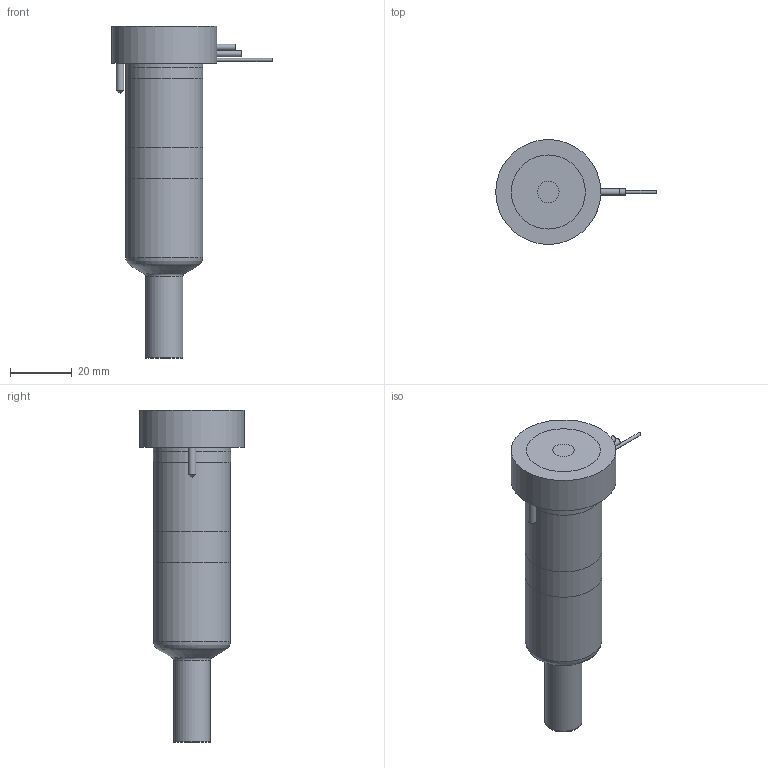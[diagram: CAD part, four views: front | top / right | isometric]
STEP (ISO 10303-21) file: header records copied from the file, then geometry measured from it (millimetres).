
FILE_DESCRIPTION(/* description */ (''),/* implementation_level */ '2;1');
FILE_NAME(/* name */ 'MXTSX-MXISX-MXOSX16075_250C_b',/* time_stamp */ '2008-04-28T15:42:24+12:00',/* author */ (''),/* organization */ (''),/* preprocessor_version */ 'ST-DEVELOPER v9',/* originating_system */ 'UGS - NX 4.0',/* authorisation */ '');
FILE_SCHEMA (('CONFIG_CONTROL_DESIGN'));
Length unit declared in the file: millimetre
Products named in the file (1): MXTSX-MXISX-MXOSX16075_250C_b
Bounding box: 51.95 x 34 x 107.51 mm (x, y, z)
Volume: 84483.2 mm3; surface area: 19804.4 mm2
Topology: 7 solids, 7 shells, 78 faces, 147 edges, 95 vertices
Faces by surface type: plane 35, cylinder 27, cone 8, torus 7, bspline 1
Full cylindrical faces by diameter (mm): 1 x4, 2 x2, 2.5 x2, 7 x1, 11.61 x1, 12.01 x2, 14.8 x1, 20.8 x1, 24.9 x2, 25 x2, 34 x1
Entity records: 1882 total; most frequent: CARTESIAN_POINT 372, DIRECTION 322, ORIENTED_EDGE 212, AXIS2_PLACEMENT_3D 148, EDGE_LOOP 122, EDGE_CURVE 106, VERTEX_POINT 87, ADVANCED_FACE 78
